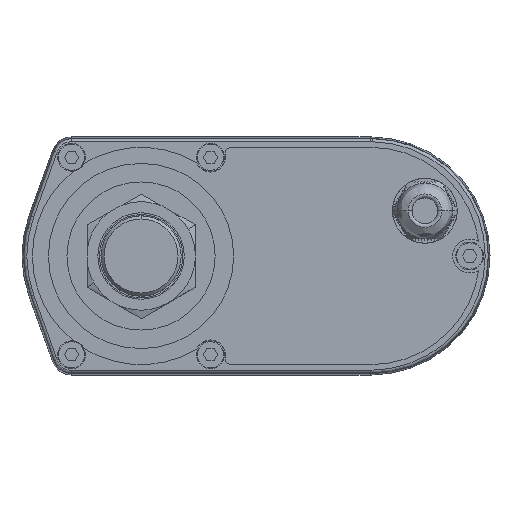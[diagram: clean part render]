
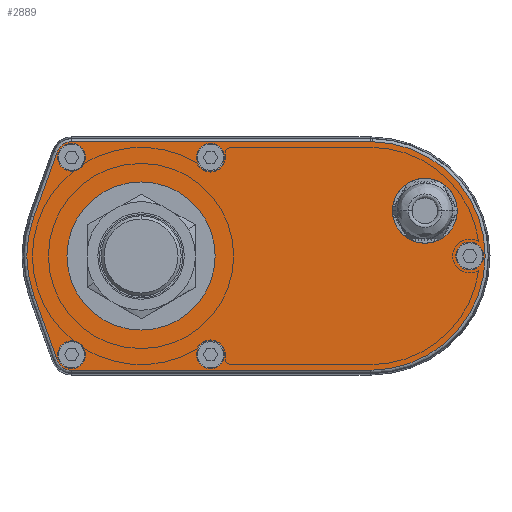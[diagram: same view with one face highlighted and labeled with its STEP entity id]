
A CAD part, left-side view. The second image highlights one B-rep face of the part: STEP entity #2889.
In plain terms, the highlighted planar face has unit normal (-1, 0, 0).
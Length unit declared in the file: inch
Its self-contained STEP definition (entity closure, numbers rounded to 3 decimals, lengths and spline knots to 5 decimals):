
#2889=ADVANCED_FACE('',(#5982,#5983,#5984,#5985,#5986,#5987,#5988,#5989),#5990,.F.);
#5982=FACE_OUTER_BOUND('',#12124,.T.);
#5983=FACE_BOUND('',#12125,.T.);
#5984=FACE_BOUND('',#12126,.T.);
#5985=FACE_BOUND('',#12127,.T.);
#5986=FACE_BOUND('',#12128,.T.);
#5987=FACE_BOUND('',#12129,.T.);
#5988=FACE_BOUND('',#12130,.T.);
#5989=FACE_BOUND('',#12131,.T.);
#5990=PLANE('',#12132);
#12124=EDGE_LOOP('',(#20837,#20838,#20839,#20840,#20841,#20842,#20843,#20844,#20845));
#12125=EDGE_LOOP('',(#20846,#20847));
#12126=EDGE_LOOP('',(#20848,#20849));
#12127=EDGE_LOOP('',(#20850,#20851));
#12128=EDGE_LOOP('',(#20852,#20853));
#12129=EDGE_LOOP('',(#20854,#20855));
#12130=EDGE_LOOP('',(#20856,#20857));
#12131=EDGE_LOOP('',(#20858,#20859));
#12132=AXIS2_PLACEMENT_3D('',#20860,#20861,#20862);
#20837=ORIENTED_EDGE('',*,*,#26161,.T.);
#20838=ORIENTED_EDGE('',*,*,#25292,.T.);
#20839=ORIENTED_EDGE('',*,*,#25688,.T.);
#20840=ORIENTED_EDGE('',*,*,#25492,.T.);
#20841=ORIENTED_EDGE('',*,*,#26162,.T.);
#20842=ORIENTED_EDGE('',*,*,#25090,.T.);
#20843=ORIENTED_EDGE('',*,*,#25740,.T.);
#20844=ORIENTED_EDGE('',*,*,#25651,.T.);
#20845=ORIENTED_EDGE('',*,*,#26034,.T.);
#20846=ORIENTED_EDGE('',*,*,#24796,.F.);
#20847=ORIENTED_EDGE('',*,*,#25845,.F.);
#20848=ORIENTED_EDGE('',*,*,#26163,.F.);
#20849=ORIENTED_EDGE('',*,*,#24980,.F.);
#20850=ORIENTED_EDGE('',*,*,#24384,.F.);
#20851=ORIENTED_EDGE('',*,*,#25538,.F.);
#20852=ORIENTED_EDGE('',*,*,#25875,.F.);
#20853=ORIENTED_EDGE('',*,*,#23310,.F.);
#20854=ORIENTED_EDGE('',*,*,#25189,.F.);
#20855=ORIENTED_EDGE('',*,*,#25074,.F.);
#20856=ORIENTED_EDGE('',*,*,#25763,.F.);
#20857=ORIENTED_EDGE('',*,*,#26105,.F.);
#20858=ORIENTED_EDGE('',*,*,#25878,.F.);
#20859=ORIENTED_EDGE('',*,*,#25497,.F.);
#20860=CARTESIAN_POINT('',(-3.85039,0.,0.));
#20861=DIRECTION('',(1.0,0.0,0.0));
#20862=DIRECTION('',(0.0,1.0,0.0));
#23310=EDGE_CURVE('',#27205,#27200,#27207,.T.);
#24384=EDGE_CURVE('',#28977,#28972,#28979,.T.);
#24796=EDGE_CURVE('',#29580,#29575,#29582,.T.);
#24980=EDGE_CURVE('',#29841,#29839,#29843,.T.);
#25074=EDGE_CURVE('',#29978,#29973,#29980,.T.);
#25090=EDGE_CURVE('',#30001,#29999,#30002,.T.);
#25189=EDGE_CURVE('',#29973,#29978,#30141,.T.);
#25292=EDGE_CURVE('',#30272,#30274,#30276,.T.);
#25492=EDGE_CURVE('',#30534,#30536,#30538,.T.);
#25497=EDGE_CURVE('',#30545,#30540,#30547,.T.);
#25538=EDGE_CURVE('',#28972,#28977,#30600,.T.);
#25651=EDGE_CURVE('',#30741,#30745,#30747,.T.);
#25688=EDGE_CURVE('',#30274,#30534,#30789,.T.);
#25740=EDGE_CURVE('',#29999,#30741,#30854,.T.);
#25763=EDGE_CURVE('',#30885,#30880,#30887,.T.);
#25845=EDGE_CURVE('',#29575,#29580,#30983,.T.);
#25875=EDGE_CURVE('',#27200,#27205,#31017,.T.);
#25878=EDGE_CURVE('',#30540,#30545,#31020,.T.);
#26034=EDGE_CURVE('',#30745,#31200,#31202,.T.);
#26105=EDGE_CURVE('',#30880,#30885,#31290,.T.);
#26161=EDGE_CURVE('',#31200,#30272,#31353,.T.);
#26162=EDGE_CURVE('',#30536,#30001,#31354,.T.);
#26163=EDGE_CURVE('',#29839,#29841,#31355,.T.);
#27200=VERTEX_POINT('',#32869);
#27205=VERTEX_POINT('',#32875);
#27207=CIRCLE('',#32878,0.17717);
#28972=VERTEX_POINT('',#35807);
#28977=VERTEX_POINT('',#35813);
#28979=CIRCLE('',#35816,0.17717);
#29575=VERTEX_POINT('',#36849);
#29580=VERTEX_POINT('',#36855);
#29582=CIRCLE('',#36858,0.94488);
#29839=VERTEX_POINT('',#37258);
#29841=VERTEX_POINT('',#37261);
#29843=CIRCLE('',#37264,0.17717);
#29973=VERTEX_POINT('',#37521);
#29978=VERTEX_POINT('',#37527);
#29980=CIRCLE('',#37530,0.17717);
#29999=VERTEX_POINT('',#37556);
#30001=VERTEX_POINT('',#37558);
#30002=CIRCLE('',#37559,1.45737);
#30141=CIRCLE('',#37778,0.17717);
#30272=VERTEX_POINT('',#37989);
#30274=VERTEX_POINT('',#37991);
#30276=CIRCLE('',#37993,1.45737);
#30534=VERTEX_POINT('',#38421);
#30536=VERTEX_POINT('',#38423);
#30538=CIRCLE('',#38425,0.19753);
#30540=VERTEX_POINT('',#38427);
#30545=VERTEX_POINT('',#38433);
#30547=CIRCLE('',#38436,0.24606);
#30600=CIRCLE('',#38518,0.17717);
#30741=VERTEX_POINT('',#38743);
#30745=VERTEX_POINT('',#38748);
#30747=LINE('',#38750,#38751);
#30789=LINE('',#38800,#38801);
#30854=CIRCLE('',#38938,1.45737);
#30880=VERTEX_POINT('',#38982);
#30885=VERTEX_POINT('',#38988);
#30887=CIRCLE('',#38991,0.17717);
#30983=CIRCLE('',#39173,0.94488);
#31017=CIRCLE('',#39233,0.17717);
#31020=CIRCLE('',#39236,0.24606);
#31200=VERTEX_POINT('',#39579);
#31202=CIRCLE('',#39581,0.19753);
#31290=CIRCLE('',#39736,0.17717);
#31353=LINE('',#39862,#39863);
#31354=LINE('',#39864,#39865);
#31355=CIRCLE('',#39866,0.17717);
#32869=CARTESIAN_POINT('',(-3.85039,-0.88583,-1.43701));
#32875=CARTESIAN_POINT('',(-3.85039,-0.88583,-1.08268));
#32878=AXIS2_PLACEMENT_3D('',#41071,#41072,#41073);
#35807=CARTESIAN_POINT('',(-3.85039,-0.88583,1.43701));
#35813=CARTESIAN_POINT('',(-3.85039,-0.88583,1.08268));
#35816=AXIS2_PLACEMENT_3D('',#42586,#42587,#42588);
#36849=CARTESIAN_POINT('',(-3.85039,0.,0.94488));
#36855=CARTESIAN_POINT('',(-3.85039,0.,-0.94488));
#36858=AXIS2_PLACEMENT_3D('',#43111,#43112,#43113);
#37258=CARTESIAN_POINT('',(-3.85039,0.88583,1.08268));
#37261=CARTESIAN_POINT('',(-3.85039,0.88583,1.43701));
#37264=AXIS2_PLACEMENT_3D('',#43329,#43330,#43331);
#37521=CARTESIAN_POINT('',(-3.85039,0.88583,-1.43701));
#37527=CARTESIAN_POINT('',(-3.85039,0.88583,-1.08268));
#37530=AXIS2_PLACEMENT_3D('',#43429,#43430,#43431);
#37556=CARTESIAN_POINT('',(-3.85039,-2.94857,1.45729));
#37558=CARTESIAN_POINT('',(-3.85039,-2.93307,-1.45737));
#37559=AXIS2_PLACEMENT_3D('',#43453,#43454,#43455);
#37778=AXIS2_PLACEMENT_3D('',#43608,#43609,#43610);
#37989=CARTESIAN_POINT('',(-3.85039,1.37142,0.49309));
#37991=CARTESIAN_POINT('',(-3.85039,1.37142,-0.49309));
#37993=AXIS2_PLACEMENT_3D('',#43722,#43723,#43724);
#38421=CARTESIAN_POINT('',(-3.85039,1.07171,-1.32668));
#38423=CARTESIAN_POINT('',(-3.85039,0.88583,-1.45737));
#38425=AXIS2_PLACEMENT_3D('',#43958,#43959,#43960);
#38427=CARTESIAN_POINT('',(-3.85039,-3.6207,0.33093));
#38433=CARTESIAN_POINT('',(-3.85039,-3.6207,0.82305));
#38436=AXIS2_PLACEMENT_3D('',#43966,#43967,#43968);
#38518=AXIS2_PLACEMENT_3D('',#44015,#44016,#44017);
#38743=CARTESIAN_POINT('',(-3.85039,-2.93307,1.45737));
#38748=CARTESIAN_POINT('',(-3.85039,0.88583,1.45737));
#38750=CARTESIAN_POINT('',(-3.85039,-2.93307,1.45737));
#38751=VECTOR('',#44164,3.8189);
#38800=CARTESIAN_POINT('',(-3.85039,1.37142,-0.49309));
#38801=VECTOR('',#44229,0.88583);
#38938=AXIS2_PLACEMENT_3D('',#44281,#44282,#44283);
#38982=CARTESIAN_POINT('',(-3.85039,-4.19291,0.17717));
#38988=CARTESIAN_POINT('',(-3.85039,-4.19291,-0.17717));
#38991=AXIS2_PLACEMENT_3D('',#44298,#44299,#44300);
#39173=AXIS2_PLACEMENT_3D('',#44367,#44368,#44369);
#39233=AXIS2_PLACEMENT_3D('',#44404,#44405,#44406);
#39236=AXIS2_PLACEMENT_3D('',#44410,#44411,#44412);
#39579=CARTESIAN_POINT('',(-3.85039,1.07171,1.32668));
#39581=AXIS2_PLACEMENT_3D('',#44552,#44553,#44554);
#39736=AXIS2_PLACEMENT_3D('',#44608,#44609,#44610);
#39862=CARTESIAN_POINT('',(-3.85039,1.07171,1.32668));
#39863=VECTOR('',#44651,0.88583);
#39864=CARTESIAN_POINT('',(-3.85039,0.88583,-1.45737));
#39865=VECTOR('',#44652,3.8189);
#39866=AXIS2_PLACEMENT_3D('',#44653,#44654,#44655);
#41071=CARTESIAN_POINT('',(-3.85039,-0.88583,-1.25984));
#41072=DIRECTION('',(-1.0,0.0,0.0));
#41073=DIRECTION('',(0.0,0.0,1.0));
#42586=CARTESIAN_POINT('',(-3.85039,-0.88583,1.25984));
#42587=DIRECTION('',(-1.0,0.0,0.0));
#42588=DIRECTION('',(0.0,0.0,-1.0));
#43111=CARTESIAN_POINT('',(-3.85039,0.,0.));
#43112=DIRECTION('',(-1.0,0.0,0.0));
#43113=DIRECTION('',(0.0,0.0,-1.0));
#43329=CARTESIAN_POINT('',(-3.85039,0.88583,1.25984));
#43330=DIRECTION('',(-1.0,0.0,0.0));
#43331=DIRECTION('',(0.0,0.0,1.0));
#43429=CARTESIAN_POINT('',(-3.85039,0.88583,-1.25984));
#43430=DIRECTION('',(-1.0,0.0,0.0));
#43431=DIRECTION('',(0.0,0.0,1.0));
#43453=CARTESIAN_POINT('',(-3.85039,-2.93307,0.));
#43454=DIRECTION('',(-1.0,0.0,0.0));
#43455=DIRECTION('',(0.0,0.0,-1.0));
#43608=CARTESIAN_POINT('',(-3.85039,0.88583,-1.25984));
#43609=DIRECTION('',(-1.0,0.0,0.0));
#43610=DIRECTION('',(0.0,0.0,-1.0));
#43722=CARTESIAN_POINT('',(-3.85039,0.,0.));
#43723=DIRECTION('',(-1.0,0.0,0.0));
#43724=DIRECTION('',(0.0,0.941,0.338));
#43958=CARTESIAN_POINT('',(-3.85039,0.88583,-1.25984));
#43959=DIRECTION('',(-1.0,0.0,0.0));
#43960=DIRECTION('',(0.0,0.941,-0.338));
#43966=CARTESIAN_POINT('',(-3.85039,-3.6207,0.57699));
#43967=DIRECTION('',(-1.0,0.0,0.0));
#43968=DIRECTION('',(0.0,0.0,1.0));
#44015=CARTESIAN_POINT('',(-3.85039,-0.88583,1.25984));
#44016=DIRECTION('',(-1.0,0.0,0.0));
#44017=DIRECTION('',(0.0,0.0,1.0));
#44164=DIRECTION('',(0.0,1.0,0.0));
#44229=DIRECTION('',(0.0,-0.338,-0.941));
#44281=CARTESIAN_POINT('',(-3.85039,-2.93307,0.));
#44282=DIRECTION('',(-1.0,0.0,0.0));
#44283=DIRECTION('',(0.0,0.0,-1.0));
#44298=CARTESIAN_POINT('',(-3.85039,-4.19291,0.));
#44299=DIRECTION('',(-1.0,0.0,0.0));
#44300=DIRECTION('',(0.0,0.0,-1.0));
#44367=CARTESIAN_POINT('',(-3.85039,0.,0.));
#44368=DIRECTION('',(-1.0,0.0,0.0));
#44369=DIRECTION('',(0.0,0.0,1.0));
#44404=CARTESIAN_POINT('',(-3.85039,-0.88583,-1.25984));
#44405=DIRECTION('',(-1.0,0.0,0.0));
#44406=DIRECTION('',(0.0,0.0,-1.0));
#44410=CARTESIAN_POINT('',(-3.85039,-3.6207,0.57699));
#44411=DIRECTION('',(-1.0,0.0,0.0));
#44412=DIRECTION('',(0.0,0.0,-1.0));
#44552=CARTESIAN_POINT('',(-3.85039,0.88583,1.25984));
#44553=DIRECTION('',(-1.0,0.0,0.0));
#44554=DIRECTION('',(0.0,0.0,1.0));
#44608=CARTESIAN_POINT('',(-3.85039,-4.19291,0.));
#44609=DIRECTION('',(-1.0,0.0,0.0));
#44610=DIRECTION('',(0.0,0.0,1.0));
#44651=DIRECTION('',(0.0,0.338,-0.941));
#44652=DIRECTION('',(0.0,-1.0,0.0));
#44653=CARTESIAN_POINT('',(-3.85039,0.88583,1.25984));
#44654=DIRECTION('',(-1.0,0.0,0.0));
#44655=DIRECTION('',(0.0,0.0,-1.0));
